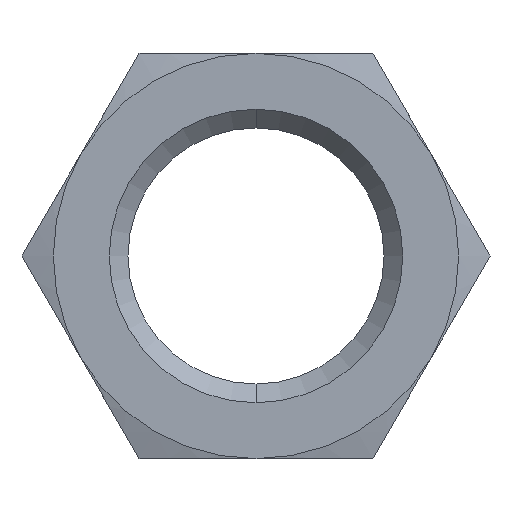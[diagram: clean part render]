
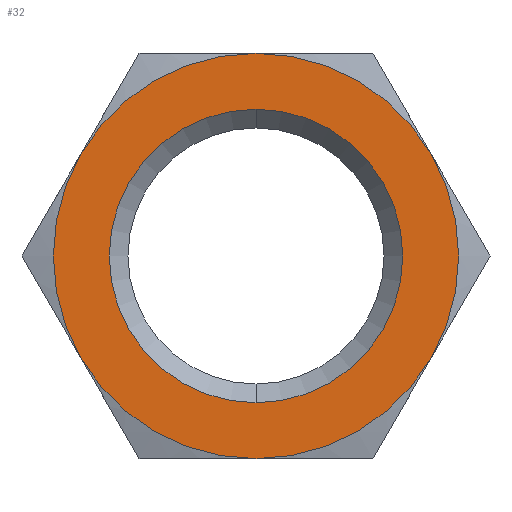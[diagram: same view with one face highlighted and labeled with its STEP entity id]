
A CAD part, left-side view. The second image highlights one B-rep face of the part: STEP entity #32.
In plain terms, the highlighted planar face has unit normal (-1, 0, 0).
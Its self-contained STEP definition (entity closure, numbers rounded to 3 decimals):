
#4 = EDGE_CURVE ( 'NONE', #202, #199, #262, .T. ) ;
#5 = ORIENTED_EDGE ( 'NONE', *, *, #201, .F. ) ;
#6 = EDGE_LOOP ( 'NONE', ( #7, #78, #80, #235, #237, #45 ) ) ;
#7 = ORIENTED_EDGE ( 'NONE', *, *, #234, .F. ) ;
#22 = VERTEX_POINT ( 'NONE', #348 ) ;
#32 = ADVANCED_FACE ( 'NONE', ( #331, #333 ), #326, .F. ) ;
#33 = EDGE_LOOP ( 'NONE', ( #34, #5 ) ) ;
#34 = ORIENTED_EDGE ( 'NONE', *, *, #4, .F. ) ;
#45 = ORIENTED_EDGE ( 'NONE', *, *, #46, .F. ) ;
#46 = EDGE_CURVE ( 'NONE', #119, #137, #428, .T. ) ;
#78 = ORIENTED_EDGE ( 'NONE', *, *, #79, .F. ) ;
#79 = EDGE_CURVE ( 'NONE', #323, #22, #295, .T. ) ;
#80 = ORIENTED_EDGE ( 'NONE', *, *, #81, .F. ) ;
#81 = EDGE_CURVE ( 'NONE', #97, #323, #290, .T. ) ;
#97 = VERTEX_POINT ( 'NONE', #386 ) ;
#119 = VERTEX_POINT ( 'NONE', #463 ) ;
#135 = VERTEX_POINT ( 'NONE', #607 ) ;
#137 = VERTEX_POINT ( 'NONE', #524 ) ;
#199 = VERTEX_POINT ( 'NONE', #576 ) ;
#201 = EDGE_CURVE ( 'NONE', #199, #202, #575, .T. ) ;
#202 = VERTEX_POINT ( 'NONE', #570 ) ;
#234 = EDGE_CURVE ( 'NONE', #22, #119, #700, .T. ) ;
#235 = ORIENTED_EDGE ( 'NONE', *, *, #236, .F. ) ;
#236 = EDGE_CURVE ( 'NONE', #135, #97, #696, .T. ) ;
#237 = ORIENTED_EDGE ( 'NONE', *, *, #238, .T. ) ;
#238 = EDGE_CURVE ( 'NONE', #135, #137, #691, .T. ) ;
#258 = DIRECTION ( 'NONE',  ( 0., 0., 1. ) ) ;
#259 = DIRECTION ( 'NONE',  ( -1., 0., 0. ) ) ;
#260 = CARTESIAN_POINT ( 'NONE',  ( 0., 0., 0. ) ) ;
#261 = AXIS2_PLACEMENT_3D ( 'NONE', #260, #259, #258 ) ;
#262 = CIRCLE ( 'NONE', #261, 5.75 ) ;
#290 = CIRCLE ( 'NONE', #415, 7.94 ) ;
#291 = DIRECTION ( 'NONE',  ( 0., 0., -1. ) ) ;
#292 = DIRECTION ( 'NONE',  ( 1., 0., 0. ) ) ;
#293 = CARTESIAN_POINT ( 'NONE',  ( 0., 0., 0. ) ) ;
#294 = AXIS2_PLACEMENT_3D ( 'NONE', #293, #292, #291 ) ;
#295 = CIRCLE ( 'NONE', #294, 7.94 ) ;
#323 = VERTEX_POINT ( 'NONE', #804 ) ;
#325 = AXIS2_PLACEMENT_3D ( 'NONE', #381, #380, #379 ) ;
#326 = PLANE ( 'NONE',  #325 ) ;
#331 = FACE_BOUND ( 'NONE', #33, .T. ) ;
#333 = FACE_OUTER_BOUND ( 'NONE', #6, .T. ) ;
#348 = CARTESIAN_POINT ( 'NONE',  ( 0., 0., -7.94 ) ) ;
#379 = DIRECTION ( 'NONE',  ( 0., 0., -1. ) ) ;
#380 = DIRECTION ( 'NONE',  ( 1., 0., 0. ) ) ;
#381 = CARTESIAN_POINT ( 'NONE',  ( 0., 0., -19.009 ) ) ;
#386 = CARTESIAN_POINT ( 'NONE',  ( 0., -6.876, 3.97 ) ) ;
#412 = DIRECTION ( 'NONE',  ( 0., 0., -1. ) ) ;
#413 = DIRECTION ( 'NONE',  ( 1., 0., 0. ) ) ;
#414 = CARTESIAN_POINT ( 'NONE',  ( 0., 0., 0. ) ) ;
#415 = AXIS2_PLACEMENT_3D ( 'NONE', #414, #413, #412 ) ;
#424 = DIRECTION ( 'NONE',  ( 0., 0., -1. ) ) ;
#425 = DIRECTION ( 'NONE',  ( 1., 0., 0. ) ) ;
#426 = CARTESIAN_POINT ( 'NONE',  ( 0., 0., 0. ) ) ;
#427 = AXIS2_PLACEMENT_3D ( 'NONE', #426, #425, #424 ) ;
#428 = CIRCLE ( 'NONE', #427, 7.94 ) ;
#463 = CARTESIAN_POINT ( 'NONE',  ( 0., 6.876, -3.97 ) ) ;
#524 = CARTESIAN_POINT ( 'NONE',  ( 0., 6.876, 3.97 ) ) ;
#570 = CARTESIAN_POINT ( 'NONE',  ( 0., 0., 5.75 ) ) ;
#571 = DIRECTION ( 'NONE',  ( 0., 0., 1. ) ) ;
#572 = DIRECTION ( 'NONE',  ( -1., 0., 0. ) ) ;
#573 = CARTESIAN_POINT ( 'NONE',  ( 0., 0., 0. ) ) ;
#574 = AXIS2_PLACEMENT_3D ( 'NONE', #573, #572, #571 ) ;
#575 = CIRCLE ( 'NONE', #574, 5.75 ) ;
#576 = CARTESIAN_POINT ( 'NONE',  ( 0., 0., -5.75 ) ) ;
#607 = CARTESIAN_POINT ( 'NONE',  ( 0., 0., 7.94 ) ) ;
#687 = DIRECTION ( 'NONE',  ( 0., 0., 1. ) ) ;
#688 = DIRECTION ( 'NONE',  ( -1., 0., 0. ) ) ;
#689 = CARTESIAN_POINT ( 'NONE',  ( 0., 0., 0. ) ) ;
#690 = AXIS2_PLACEMENT_3D ( 'NONE', #689, #688, #687 ) ;
#691 = CIRCLE ( 'NONE', #690, 7.94 ) ;
#692 = DIRECTION ( 'NONE',  ( 0., 0., -1. ) ) ;
#693 = DIRECTION ( 'NONE',  ( 1., 0., 0. ) ) ;
#694 = CARTESIAN_POINT ( 'NONE',  ( 0., 0., 0. ) ) ;
#695 = AXIS2_PLACEMENT_3D ( 'NONE', #694, #693, #692 ) ;
#696 = CIRCLE ( 'NONE', #695, 7.94 ) ;
#697 = DIRECTION ( 'NONE',  ( 0., 0., -1. ) ) ;
#698 = DIRECTION ( 'NONE',  ( 1., 0., 0. ) ) ;
#699 = AXIS2_PLACEMENT_3D ( 'NONE', #705, #698, #697 ) ;
#700 = CIRCLE ( 'NONE', #699, 7.94 ) ;
#705 = CARTESIAN_POINT ( 'NONE',  ( 0., 0., 0. ) ) ;
#804 = CARTESIAN_POINT ( 'NONE',  ( 0., -6.876, -3.97 ) ) ;
